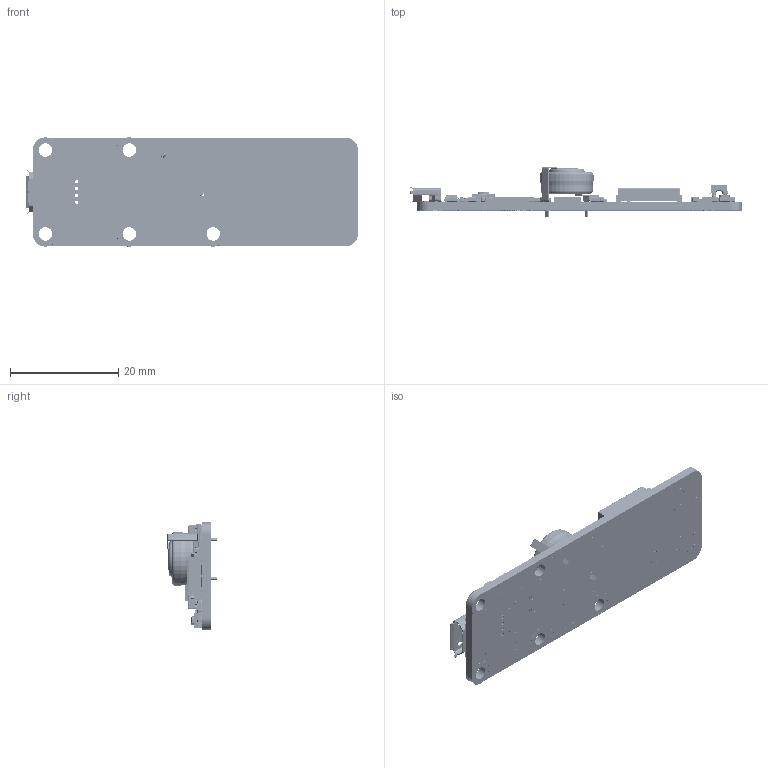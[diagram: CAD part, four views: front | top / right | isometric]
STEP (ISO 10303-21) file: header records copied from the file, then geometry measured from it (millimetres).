
FILE_DESCRIPTION (( 'STEP AP203' ), '1' );
FILE_NAME ('yoctogps.STEP', '2015-02-16T14:22:53', ( 'martinm' ), ( '' ), 'SwSTEP 2.0', 'SolidWorks 2008', '' );
FILE_SCHEMA (( 'CONFIG_CONTROL_DESIGN' ));
Products named in the file (34): yoctogps; PCB_Défaut; ANT1_Défaut; C1; C7; C11; C12; C16; C18; C19; C27; C31; CPU1; D3; FLASH1; GPS1_Défaut; GPSLOCK; I1_Défaut; R1; R6; R7; R8; R12; R16; R17; R18; R28; R29; REG2; T1; USB1; YBUTTON; YLED; sens1
Assembly tree (52 placements, depth 2):
  yoctogps
    C7  x2
    C27  x10
    D3
    I1_Défaut
    C18  x2
    C19  x2
    R12
    R17
    ANT1_Défaut
    C16  x2
    CPU1
    R16  x3
    YLED
    GPSLOCK
    PCB_Défaut
    R1
    R6  x3
    REG2  x2
    FLASH1
    sens1
    C1
    R18  x2
    T1
    GPS1_Défaut
    R29
    R7
    USB1
    C12
    C31
    R28
    R8
    C11
    YBUTTON
Bounding box: 61.35 x 9.1 x 20.2 mm (x, y, z)
Volume: 2903.1 mm3; surface area: 4718.4 mm2
Topology: 65 solids, 65 shells, 7656 faces, 19651 edges, 12674 vertices
Faces by surface type: plane 4772, cylinder 1787, bspline 893, sphere 173, torus 17, cone 14
Entity records: 264977 total; most frequent: CARTESIAN_POINT 102470, ORIENTED_EDGE 34012, DIRECTION 30036, EDGE_CURVE 17006, VECTOR 12206, LINE 12206, VERTEX_POINT 11190, AXIS2_PLACEMENT_3D 8915
